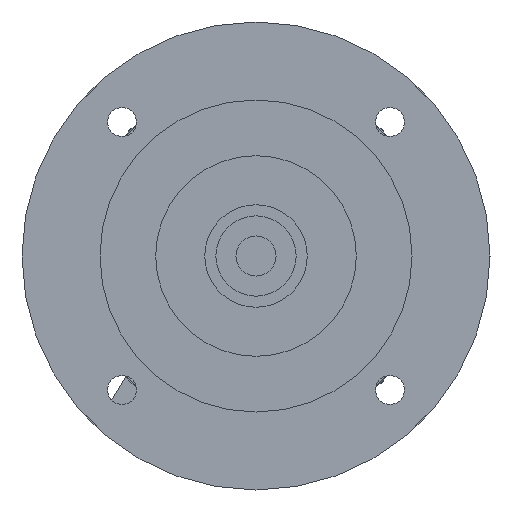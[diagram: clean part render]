
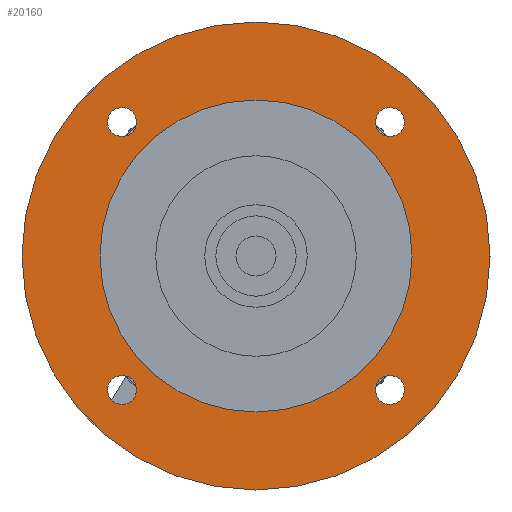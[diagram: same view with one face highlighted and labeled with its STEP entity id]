
A CAD part, left-side view. The second image highlights one B-rep face of the part: STEP entity #20160.
In plain terms, the highlighted planar face has unit normal (-1, 0, 0) as drawn and (0, 0, -1) by its records, which use the part's own axes.
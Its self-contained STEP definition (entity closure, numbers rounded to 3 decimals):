
#19000=CARTESIAN_POINT('',(-30.052,-26.802,-42.));
#19010=VERTEX_POINT('',#19000);
#19040=CARTESIAN_POINT('',(-30.052,-30.052,-42.));
#19050=DIRECTION('',(0.,0.,-1.));
#19060=DIRECTION('',(0.,-1.,0.));
#19070=AXIS2_PLACEMENT_3D('',#19040,#19050,#19060);
#19080=CIRCLE('',#19070,3.25);
#19090=CARTESIAN_POINT('',(-30.052,-33.302,-42.));
#19100=VERTEX_POINT('',#19090);
#19110=EDGE_CURVE('',#19100,#19010,#19080,.T.);
#19230=CARTESIAN_POINT('',(0.,0.,-42.)
);
#19240=DIRECTION('',(0.,0.,-1.));
#19250=DIRECTION('',(1.,0.,0.));
#19260=AXIS2_PLACEMENT_3D('',#19230,#19240,#19250);
#19270=PLANE('',#19260);
#19280=CARTESIAN_POINT('',(30.052,-30.052,-42.));
#19290=DIRECTION('',(0.,0.,-1.));
#19300=DIRECTION('',(1.,0.,0.));
#19310=AXIS2_PLACEMENT_3D('',#19280,#19290,#19300);
#19320=CIRCLE('',#19310,3.25);
#19330=CARTESIAN_POINT('',(33.302,-30.052,-42.));
#19340=VERTEX_POINT('',#19330);
#19350=CARTESIAN_POINT('',(26.802,-30.052,-42.));
#19360=VERTEX_POINT('',#19350);
#19370=EDGE_CURVE('',#19340,#19360,#19320,.T.);
#19380=ORIENTED_EDGE('',*,*,#19370,.F.);
#19390=EDGE_CURVE('',#19360,#19340,#19320,.T.);
#19400=ORIENTED_EDGE('',*,*,#19390,.F.);
#19410=EDGE_LOOP('',(#19400,#19380));
#19420=FACE_BOUND('',#19410,.T.);
#19430=CARTESIAN_POINT('',(0.,0.,-42.)
);
#19440=DIRECTION('',(0.,0.,-1.));
#19450=DIRECTION('',(0.,-1.,0.));
#19460=AXIS2_PLACEMENT_3D('',#19430,#19440,#19450);
#19470=CIRCLE('',#19460,52.5);
#19480=CARTESIAN_POINT('',(-52.5,0.,-42.));
#19490=VERTEX_POINT('',#19480);
#19500=CARTESIAN_POINT('',(52.5,0.,-42.));
#19510=VERTEX_POINT('',#19500);
#19520=EDGE_CURVE('',#19490,#19510,#19470,.T.);
#19530=ORIENTED_EDGE('',*,*,#19520,.T.);
#19540=CARTESIAN_POINT('',(0.,-52.5,-42.));
#19550=VERTEX_POINT('',#19540);
#19560=EDGE_CURVE('',#19550,#19490,#19470,.T.);
#19570=ORIENTED_EDGE('',*,*,#19560,.T.);
#19580=EDGE_CURVE('',#19510,#19550,#19470,.T.);
#19590=ORIENTED_EDGE('',*,*,#19580,.T.);
#19600=EDGE_LOOP('',(#19590,#19570,#19530));
#19610=FACE_OUTER_BOUND('',#19600,.T.);
#19620=CARTESIAN_POINT('',(30.052,30.052,-42.));
#19630=DIRECTION('',(0.,0.,-1.));
#19640=DIRECTION('',(0.,1.,0.));
#19650=AXIS2_PLACEMENT_3D('',#19620,#19630,#19640);
#19660=CIRCLE('',#19650,3.25);
#19670=CARTESIAN_POINT('',(30.052,33.302,-42.));
#19680=VERTEX_POINT('',#19670);
#19690=CARTESIAN_POINT('',(30.052,26.802,-42.));
#19700=VERTEX_POINT('',#19690);
#19710=EDGE_CURVE('',#19680,#19700,#19660,.T.);
#19720=ORIENTED_EDGE('',*,*,#19710,.F.);
#19730=EDGE_CURVE('',#19700,#19680,#19660,.T.);
#19740=ORIENTED_EDGE('',*,*,#19730,.F.);
#19750=EDGE_LOOP('',(#19740,#19720));
#19760=FACE_BOUND('',#19750,.T.);
#19770=CARTESIAN_POINT('',(-30.052,30.052,-42.));
#19780=DIRECTION('',(0.,0.,-1.));
#19790=DIRECTION('',(-1.,0.,0.));
#19800=AXIS2_PLACEMENT_3D('',#19770,#19780,#19790);
#19810=CIRCLE('',#19800,3.25);
#19820=CARTESIAN_POINT('',(-33.302,30.052,-42.));
#19830=VERTEX_POINT('',#19820);
#19840=CARTESIAN_POINT('',(-26.802,30.052,-42.));
#19850=VERTEX_POINT('',#19840);
#19860=EDGE_CURVE('',#19830,#19850,#19810,.T.);
#19870=ORIENTED_EDGE('',*,*,#19860,.F.);
#19880=EDGE_CURVE('',#19850,#19830,#19810,.T.);
#19890=ORIENTED_EDGE('',*,*,#19880,.F.);
#19900=EDGE_LOOP('',(#19890,#19870));
#19910=FACE_BOUND('',#19900,.T.);
#19920=ORIENTED_EDGE('',*,*,#19110,.F.);
#19930=EDGE_CURVE('',#19010,#19100,#19080,.T.);
#19940=ORIENTED_EDGE('',*,*,#19930,.F.);
#19950=EDGE_LOOP('',(#19940,#19920));
#19960=FACE_BOUND('',#19950,.T.);
#19970=CARTESIAN_POINT('',(0.,0.,
-42.));
#19980=DIRECTION('',(0.,0.,1.));
#19990=DIRECTION('',(0.,1.,0.));
#20000=AXIS2_PLACEMENT_3D('',#19970,#19980,#19990);
#20010=CIRCLE('',#20000,35.);
#20020=CARTESIAN_POINT('',(-35.,0.,-42.));
#20030=VERTEX_POINT('',#20020);
#20040=CARTESIAN_POINT('',(35.,0.,-42.));
#20050=VERTEX_POINT('',#20040);
#20060=EDGE_CURVE('',#20030,#20050,#20010,.T.);
#20070=ORIENTED_EDGE('',*,*,#20060,.T.);
#20080=CARTESIAN_POINT('',(0.,35.,-42.));
#20090=VERTEX_POINT('',#20080);
#20100=EDGE_CURVE('',#20090,#20030,#20010,.T.);
#20110=ORIENTED_EDGE('',*,*,#20100,.T.);
#20120=EDGE_CURVE('',#20050,#20090,#20010,.T.);
#20130=ORIENTED_EDGE('',*,*,#20120,.T.);
#20140=EDGE_LOOP('',(#20130,#20110,#20070));
#20150=FACE_BOUND('',#20140,.T.);
#20160=ADVANCED_FACE('',(#19420,#19610,#19760,#19910,#19960,#20150),
#19270,.T.);
